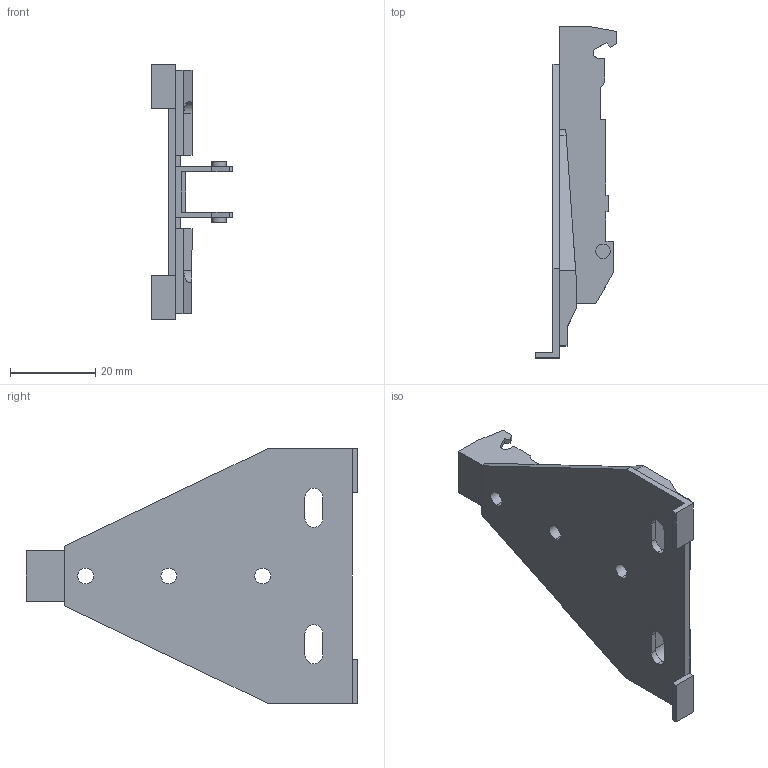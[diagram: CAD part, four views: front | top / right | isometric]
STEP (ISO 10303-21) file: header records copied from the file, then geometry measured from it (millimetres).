
FILE_DESCRIPTION (( 'STEP AP214' ), '1' );
FILE_NAME ('Eco Delta Spax_H 4,5.step', '2010-11-18T10:12:06', ( 'grass' ), ( '' ), 'SwSTEP 2.0', 'SolidWorks 2010', '' );
FILE_SCHEMA (( 'AUTOMOTIVE_DESIGN' ));
Length unit declared in the file: millimetre
Products named in the file (1): Eco Delta Spax_H 4,5
Bounding box: 19.2 x 77.75 x 60 mm (x, y, z)
Volume: 11497.9 mm3; surface area: 10114.3 mm2
Topology: 1 solids, 1 shells, 123 faces, 353 edges, 234 vertices
Faces by surface type: plane 98, cylinder 25
Entity records: 4036 total; most frequent: CARTESIAN_POINT 726, ORIENTED_EDGE 706, DIRECTION 643, EDGE_CURVE 353, LINE 301, VECTOR 301, VERTEX_POINT 234, AXIS2_PLACEMENT_3D 171
